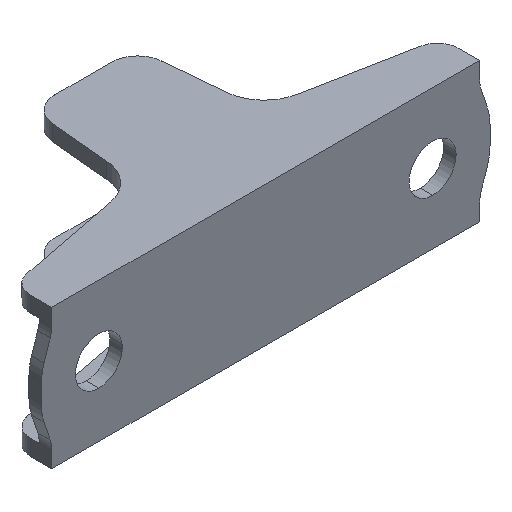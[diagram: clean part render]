
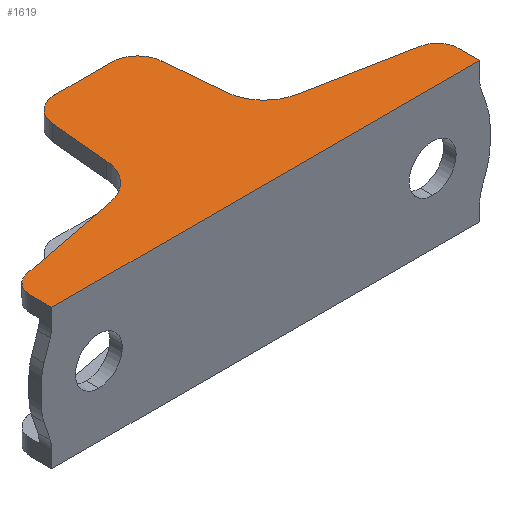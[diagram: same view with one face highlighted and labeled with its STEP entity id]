
A CAD part, isometric view. The second image highlights one B-rep face of the part: STEP entity #1619.
In plain terms, the highlighted planar face has unit normal (0, 0, 1).
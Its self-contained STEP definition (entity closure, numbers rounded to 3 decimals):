
#7 = DIRECTION ( 'NONE',  ( -0.091, -0.996, 0. ) ) ;
#9 = EDGE_CURVE ( 'NONE', #1528, #1594, #1209, .T. ) ;
#34 = VECTOR ( 'NONE', #779, 1000. ) ;
#45 = LINE ( 'NONE', #419, #915 ) ;
#68 = LINE ( 'NONE', #765, #34 ) ;
#86 = CIRCLE ( 'NONE', #467, 2.5 ) ;
#87 = EDGE_CURVE ( 'NONE', #1634, #1545, #134, .T. ) ;
#131 = EDGE_CURVE ( 'NONE', #299, #1634, #86, .T. ) ;
#134 = LINE ( 'NONE', #254, #978 ) ;
#153 = DIRECTION ( 'NONE',  ( -0.982, -0.19, 0. ) ) ;
#154 = CARTESIAN_POINT ( 'NONE',  ( -8.951, -2.821, 6.7 ) ) ;
#173 = EDGE_CURVE ( 'NONE', #1738, #1696, #1122, .T. ) ;
#195 = FACE_OUTER_BOUND ( 'NONE', #1823, .T. ) ;
#196 = EDGE_CURVE ( 'NONE', #883, #299, #45, .T. ) ;
#197 = CARTESIAN_POINT ( 'NONE',  ( 5.728, 0.744, 6.7 ) ) ;
#237 = EDGE_CURVE ( 'NONE', #1262, #883, #892, .T. ) ;
#254 = CARTESIAN_POINT ( 'NONE',  ( 2.717, 8.75, 6.7 ) ) ;
#265 = DIRECTION ( 'NONE',  ( -1., 0., 0. ) ) ;
#285 = CARTESIAN_POINT ( 'NONE',  ( -18.88, -4.743, 6.7 ) ) ;
#299 = VERTEX_POINT ( 'NONE', #535 ) ;
#325 = EDGE_CURVE ( 'NONE', #1696, #1473, #887, .T. ) ;
#327 = CARTESIAN_POINT ( 'NONE',  ( 18.5, -6.706, 6.7 ) ) ;
#351 = CARTESIAN_POINT ( 'NONE',  ( 2.717, 6.25, 6.7 ) ) ;
#352 = DIRECTION ( 'NONE',  ( 0., 0., 1. ) ) ;
#355 = DIRECTION ( 'NONE',  ( 1., 0., 0. ) ) ;
#368 = DIRECTION ( 'NONE',  ( 0., -1., 0. ) ) ;
#377 = CARTESIAN_POINT ( 'NONE',  ( -20.5, -6.706, 6.7 ) ) ;
#381 = CARTESIAN_POINT ( 'NONE',  ( 9.711, 1.106, 6.7 ) ) ;
#384 = CARTESIAN_POINT ( 'NONE',  ( -2.717, 8.75, 6.7 ) ) ;
#419 = CARTESIAN_POINT ( 'NONE',  ( 5.728, 0.744, 6.7 ) ) ;
#432 = DIRECTION ( 'NONE',  ( -0.091, 0.996, 0. ) ) ;
#463 = EDGE_CURVE ( 'NONE', #1473, #1453, #792, .T. ) ;
#467 = AXIS2_PLACEMENT_3D ( 'NONE', #351, #352, #355 ) ;
#472 = CARTESIAN_POINT ( 'NONE',  ( 9.711, 1.106, 6.7 ) ) ;
#473 = CARTESIAN_POINT ( 'NONE',  ( 2.717, 8.75, 6.7 ) ) ;
#476 = DIRECTION ( 'NONE',  ( 0., 0., -1. ) ) ;
#477 = DIRECTION ( 'NONE',  ( 1., 0., 0. ) ) ;
#509 = DIRECTION ( 'NONE',  ( 1., 0., 0. ) ) ;
#532 = DIRECTION ( 'NONE',  ( 0., 0., 1. ) ) ;
#535 = CARTESIAN_POINT ( 'NONE',  ( 5.207, 6.476, 6.7 ) ) ;
#538 = PLANE ( 'NONE',  #977 ) ;
#573 = DIRECTION ( 'NONE',  ( 1., 0., 0. ) ) ;
#598 = CARTESIAN_POINT ( 'NONE',  ( -20.5, -8.75, 6.7 ) ) ;
#647 = EDGE_CURVE ( 'NONE', #1530, #1038, #715, .T. ) ;
#654 = CIRCLE ( 'NONE', #1772, 2.5 ) ;
#659 = CIRCLE ( 'NONE', #1782, 4. ) ;
#672 = VECTOR ( 'NONE', #7, 1000. ) ;
#694 = EDGE_CURVE ( 'NONE', #1038, #1528, #659, .T. ) ;
#699 = EDGE_CURVE ( 'NONE', #1545, #1530, #654, .T. ) ;
#715 = LINE ( 'NONE', #1845, #672 ) ;
#717 = CARTESIAN_POINT ( 'NONE',  ( -20.5, -8.75, 6.7 ) ) ;
#729 = AXIS2_PLACEMENT_3D ( 'NONE', #1139, #1143, #1146 ) ;
#739 = AXIS2_PLACEMENT_3D ( 'NONE', #327, #1339, #1285 ) ;
#765 = CARTESIAN_POINT ( 'NONE',  ( 18.88, -4.743, 6.7 ) ) ;
#778 = VECTOR ( 'NONE', #787, 1000. ) ;
#779 = DIRECTION ( 'NONE',  ( -0.982, 0.19, 0. ) ) ;
#785 = CARTESIAN_POINT ( 'NONE',  ( 20.5, -8.75, 6.7 ) ) ;
#787 = DIRECTION ( 'NONE',  ( 0., 1., 0. ) ) ;
#792 = LINE ( 'NONE', #785, #778 ) ;
#870 = VECTOR ( 'NONE', #573, 1000. ) ;
#883 = VERTEX_POINT ( 'NONE', #197 ) ;
#887 = LINE ( 'NONE', #598, #870 ) ;
#892 = CIRCLE ( 'NONE', #1888, 4. ) ;
#915 = VECTOR ( 'NONE', #432, 1000. ) ;
#962 = CARTESIAN_POINT ( 'NONE',  ( -20.5, -6.706, 6.7 ) ) ;
#977 = AXIS2_PLACEMENT_3D ( 'NONE', #381, #532, #509 ) ;
#978 = VECTOR ( 'NONE', #265, 1000. ) ;
#1005 = CARTESIAN_POINT ( 'NONE',  ( 18.88, -4.743, 6.7 ) ) ;
#1011 = CARTESIAN_POINT ( 'NONE',  ( -5.728, 0.744, 6.7 ) ) ;
#1038 = VERTEX_POINT ( 'NONE', #1011 ) ;
#1073 = VERTEX_POINT ( 'NONE', #1005 ) ;
#1100 = ORIENTED_EDGE ( 'NONE', *, *, #694, .T. ) ;
#1115 = VECTOR ( 'NONE', #153, 1000. ) ;
#1122 = LINE ( 'NONE', #377, #1645 ) ;
#1139 = CARTESIAN_POINT ( 'NONE',  ( -18.5, -6.706, 6.7 ) ) ;
#1140 = ORIENTED_EDGE ( 'NONE', *, *, #237, .T. ) ;
#1143 = DIRECTION ( 'NONE',  ( 0., 0., 1. ) ) ;
#1146 = DIRECTION ( 'NONE',  ( 1., 0., 0. ) ) ;
#1163 = ORIENTED_EDGE ( 'NONE', *, *, #1909, .T. ) ;
#1166 = ORIENTED_EDGE ( 'NONE', *, *, #325, .T. ) ;
#1181 = ORIENTED_EDGE ( 'NONE', *, *, #463, .T. ) ;
#1209 = LINE ( 'NONE', #154, #1115 ) ;
#1214 = ORIENTED_EDGE ( 'NONE', *, *, #173, .T. ) ;
#1233 = ORIENTED_EDGE ( 'NONE', *, *, #9, .T. ) ;
#1262 = VERTEX_POINT ( 'NONE', #1264 ) ;
#1264 = CARTESIAN_POINT ( 'NONE',  ( 8.951, -2.821, 6.7 ) ) ;
#1285 = DIRECTION ( 'NONE',  ( 1., 0., 0. ) ) ;
#1338 = ORIENTED_EDGE ( 'NONE', *, *, #647, .T. ) ;
#1339 = DIRECTION ( 'NONE',  ( 0., 0., 1. ) ) ;
#1352 = ORIENTED_EDGE ( 'NONE', *, *, #699, .T. ) ;
#1367 = ORIENTED_EDGE ( 'NONE', *, *, #131, .T. ) ;
#1369 = ORIENTED_EDGE ( 'NONE', *, *, #87, .T. ) ;
#1387 = ORIENTED_EDGE ( 'NONE', *, *, #1766, .T. ) ;
#1391 = ORIENTED_EDGE ( 'NONE', *, *, #1902, .T. ) ;
#1394 = ORIENTED_EDGE ( 'NONE', *, *, #196, .T. ) ;
#1452 = DIRECTION ( 'NONE',  ( 0., 0., -1. ) ) ;
#1453 = VERTEX_POINT ( 'NONE', #1621 ) ;
#1473 = VERTEX_POINT ( 'NONE', #1694 ) ;
#1512 = CIRCLE ( 'NONE', #729, 2. ) ;
#1523 = CARTESIAN_POINT ( 'NONE',  ( -9.711, 1.106, 6.7 ) ) ;
#1526 = DIRECTION ( 'NONE',  ( 1., 0., 0. ) ) ;
#1528 = VERTEX_POINT ( 'NONE', #1780 ) ;
#1530 = VERTEX_POINT ( 'NONE', #1792 ) ;
#1545 = VERTEX_POINT ( 'NONE', #384 ) ;
#1594 = VERTEX_POINT ( 'NONE', #285 ) ;
#1619 = ADVANCED_FACE ( 'NONE', ( #195 ), #538, .T. ) ;
#1621 = CARTESIAN_POINT ( 'NONE',  ( 20.5, -6.706, 6.7 ) ) ;
#1634 = VERTEX_POINT ( 'NONE', #473 ) ;
#1645 = VECTOR ( 'NONE', #368, 1000. ) ;
#1663 = CARTESIAN_POINT ( 'NONE',  ( -2.717, 6.25, 6.7 ) ) ;
#1669 = DIRECTION ( 'NONE',  ( 0., 0., 1. ) ) ;
#1673 = DIRECTION ( 'NONE',  ( 1., 0., 0. ) ) ;
#1694 = CARTESIAN_POINT ( 'NONE',  ( 20.5, -8.75, 6.7 ) ) ;
#1696 = VERTEX_POINT ( 'NONE', #717 ) ;
#1738 = VERTEX_POINT ( 'NONE', #962 ) ;
#1766 = EDGE_CURVE ( 'NONE', #1073, #1262, #68, .T. ) ;
#1772 = AXIS2_PLACEMENT_3D ( 'NONE', #1663, #1669, #1673 ) ;
#1780 = CARTESIAN_POINT ( 'NONE',  ( -8.951, -2.821, 6.7 ) ) ;
#1782 = AXIS2_PLACEMENT_3D ( 'NONE', #1523, #1452, #1526 ) ;
#1792 = CARTESIAN_POINT ( 'NONE',  ( -5.207, 6.476, 6.7 ) ) ;
#1823 = EDGE_LOOP ( 'NONE', ( #1140, #1394, #1367, #1369, #1352, #1338, #1100, #1233, #1163, #1214, #1166, #1181, #1391, #1387 ) ) ;
#1845 = CARTESIAN_POINT ( 'NONE',  ( -5.207, 6.476, 6.7 ) ) ;
#1888 = AXIS2_PLACEMENT_3D ( 'NONE', #472, #476, #477 ) ;
#1902 = EDGE_CURVE ( 'NONE', #1453, #1073, #1914, .T. ) ;
#1909 = EDGE_CURVE ( 'NONE', #1594, #1738, #1512, .T. ) ;
#1914 = CIRCLE ( 'NONE', #739, 2. ) ;
